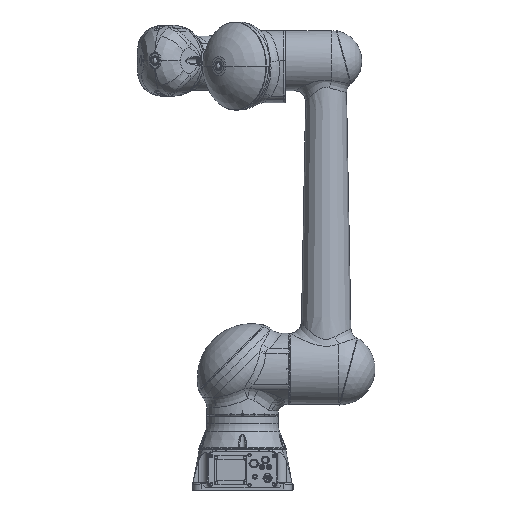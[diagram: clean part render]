
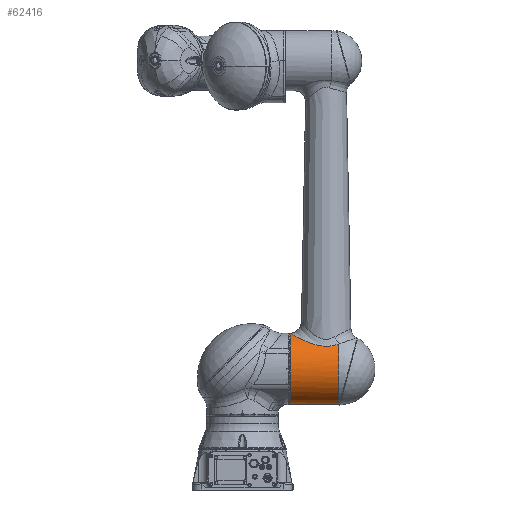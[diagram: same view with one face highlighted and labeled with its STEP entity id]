
A CAD part, left-side view. The second image highlights one B-rep face of the part: STEP entity #62416.
In plain terms, the highlighted cylindrical face has radius 81 mm (diameter 162 mm), a partial arc.
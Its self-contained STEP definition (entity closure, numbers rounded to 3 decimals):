
#61450=CARTESIAN_POINT('',(0.,-108.964,356.));
#61451=CARTESIAN_POINT('',(-1.037,-108.964,
356.));
#61452=CARTESIAN_POINT('',(-3.117,-109.031,
355.96));
#61453=CARTESIAN_POINT('',(-6.252,-109.338,
355.779));
#61454=CARTESIAN_POINT('',(-9.395,-109.853,
355.474));
#61455=CARTESIAN_POINT('',(-12.559,-110.587,
355.042));
#61456=CARTESIAN_POINT('',(-15.746,-111.55,
354.477));
#61457=CARTESIAN_POINT('',(-18.959,-112.757,
353.773));
#61458=CARTESIAN_POINT('',(-22.2,-114.225,
352.923));
#61459=CARTESIAN_POINT('',(-25.468,-115.977,
351.918));
#61460=CARTESIAN_POINT('',(-28.757,-118.034,
350.751));
#61461=CARTESIAN_POINT('',(-32.058,-120.422,
349.415));
#61462=CARTESIAN_POINT('',(-35.357,-123.165,
347.906));
#61463=CARTESIAN_POINT('',(-38.632,-126.288,
346.226));
#61464=CARTESIAN_POINT('',(-41.853,-129.807,
344.383));
#61465=CARTESIAN_POINT('',(-44.98,-133.727,
342.397));
#61466=CARTESIAN_POINT('',(-47.963,-138.033,
340.305));
#61467=CARTESIAN_POINT('',(-50.746,-142.682,
338.165));
#61468=CARTESIAN_POINT('',(-53.267,-147.597,
336.048));
#61469=CARTESIAN_POINT('',(-55.479,-152.67,
334.04));
#61470=CARTESIAN_POINT('',(-57.354,-157.785,
332.214));
#61471=CARTESIAN_POINT('',(-58.89,-162.845,
330.626));
#61472=CARTESIAN_POINT('',(-60.11,-167.791,
329.302));
#61473=CARTESIAN_POINT('',(-61.045,-172.601,
328.245));
#61474=CARTESIAN_POINT('',(-61.727,-177.28,
327.45));
#61475=CARTESIAN_POINT('',(-62.185,-181.851,
326.905));
#61476=CARTESIAN_POINT('',(-62.438,-186.349,
326.599));
#61477=CARTESIAN_POINT('',(-62.499,-190.813,
326.526));
#61478=CARTESIAN_POINT('',(-62.369,-195.284,
326.683));
#61479=CARTESIAN_POINT('',(-62.043,-199.804,
327.075));
#61480=CARTESIAN_POINT('',(-61.506,-204.411,
327.71));
#61481=CARTESIAN_POINT('',(-60.735,-209.136,
328.599));
#61482=CARTESIAN_POINT('',(-59.699,-213.998,
329.754));
#61483=CARTESIAN_POINT('',(-58.813,-217.32,
330.7));
#61484=CARTESIAN_POINT('',(-58.315,-219.,331.217));
#61486=CARTESIAN_POINT('',(0.,-219.,275.));
#61487=DIRECTION('',(0.,1.,0.));
#61488=DIRECTION('',(0.,0.,-1.));
#61489=AXIS2_PLACEMENT_3D('',#61486,#61487,#61488);
#61676=DIRECTION('',(0.,1.,0.));
#61677=VECTOR('',#61676,111.);
#61678=CARTESIAN_POINT('',(0.,-219.,194.));
#61679=LINE('',#61678,#61677);
#61719=CARTESIAN_POINT('',(0.,-108.964,356.));
#61721=DIRECTION('',(0.,1.,0.));
#61722=VECTOR('',#61721,0.964);
#61723=CARTESIAN_POINT('',(0.,-108.964,356.));
#61724=LINE('',#61723,#61722);
#61764=CARTESIAN_POINT('',(0.,-108.,275.));
#61765=DIRECTION('',(0.,1.,0.));
#61766=DIRECTION('',(0.,0.,-1.));
#61767=AXIS2_PLACEMENT_3D('',#61764,#61765,#61766);
#62294=CARTESIAN_POINT('',(0.,-219.,194.));
#62295=CARTESIAN_POINT('',(0.,-108.,194.));
#62296=VERTEX_POINT('',#62294);
#62297=VERTEX_POINT('',#62295);
#62298=CARTESIAN_POINT('',(0.,-108.,356.));
#62299=VERTEX_POINT('',#62298);
#62309=VERTEX_POINT('',#61719);
#62310=VERTEX_POINT('',#61484);
#62399=CARTESIAN_POINT('',(0.,-309.6,275.));
#62400=DIRECTION('',(0.,1.,0.));
#62401=DIRECTION('',(0.,0.,-1.));
#62402=AXIS2_PLACEMENT_3D('',#62399,#62400,#62401);
#62403=CYLINDRICAL_SURFACE('',#62402,81.);
#62405=ORIENTED_EDGE('',*,*,#62404,.T.);
#62407=ORIENTED_EDGE('',*,*,#62406,.F.);
#62409=ORIENTED_EDGE('',*,*,#62408,.T.);
#62411=ORIENTED_EDGE('',*,*,#62410,.T.);
#62413=ORIENTED_EDGE('',*,*,#62412,.F.);
#62414=EDGE_LOOP('',(#62405,#62407,#62409,#62411,#62413));
#62415=FACE_OUTER_BOUND('',#62414,.F.);
#62416=ADVANCED_FACE('',(#62415),#62403,.T.);
#61485=B_SPLINE_CURVE_WITH_KNOTS('',3,(#61450,#61451,#61452,#61453,#61454,
#61455,#61456,#61457,#61458,#61459,#61460,#61461,#61462,#61463,#61464,#61465,
#61466,#61467,#61468,#61469,#61470,#61471,#61472,#61473,#61474,#61475,#61476,
#61477,#61478,#61479,#61480,#61481,#61482,#61483,#61484),.UNSPECIFIED.,.F.,.F.,(
4,1,1,1,1,1,1,1,1,1,1,1,1,1,1,1,1,1,1,1,1,1,1,1,1,1,1,1,1,1,1,1,4),(0.,
0.031,0.063,0.094,0.125,0.156,0.188,0.219,0.25,0.281,
0.313,0.344,0.375,0.406,0.438,0.469,0.5,0.531,
0.563,0.594,0.625,0.656,0.688,0.719,0.75,0.781,
0.813,0.844,0.875,0.906,0.938,0.969,1.),.UNSPECIFIED.);
#61490=CIRCLE('',#61489,81.);
#61768=CIRCLE('',#61767,81.);
#62404=EDGE_CURVE('',#62309,#62310,#61485,.T.);
#62406=EDGE_CURVE('',#62296,#62310,#61490,.T.);
#62408=EDGE_CURVE('',#62296,#62297,#61679,.T.);
#62410=EDGE_CURVE('',#62297,#62299,#61768,.T.);
#62412=EDGE_CURVE('',#62309,#62299,#61724,.T.);
